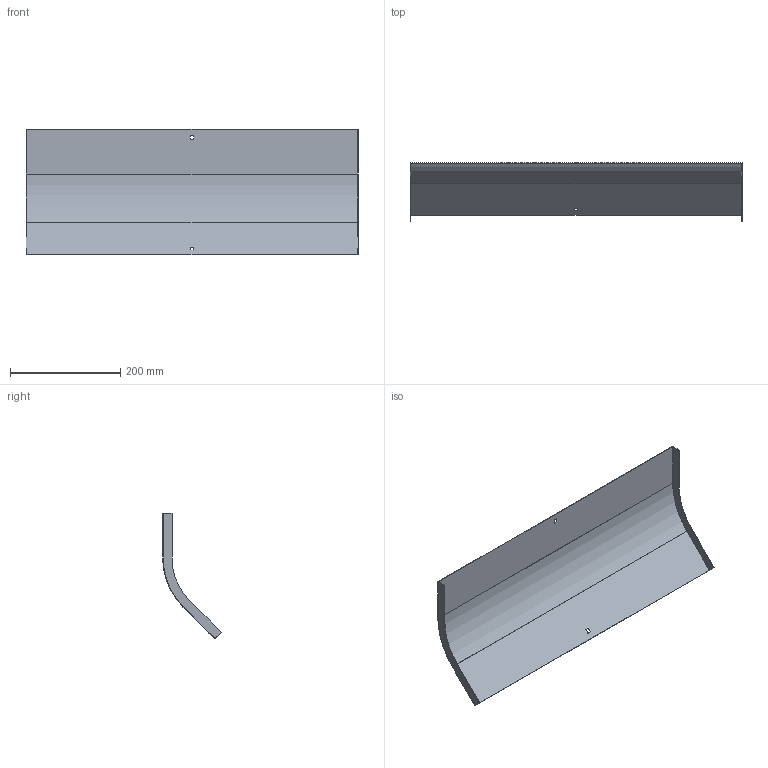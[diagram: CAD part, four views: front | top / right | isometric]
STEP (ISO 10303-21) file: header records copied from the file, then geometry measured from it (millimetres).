
FILE_DESCRIPTION (( 'STEP AP214' ), '1' );
FILE_NAME ('OD4_601.step', '2025-07-16T09:12:23', ( '' ), ( '' ), 'SwSTEP 2.0', 'SolidWorks 2023', '' );
FILE_SCHEMA (( 'AUTOMOTIVE_DESIGN' ));
Length unit declared in the file: millimetre
Products named in the file (1): OD4_601
Bounding box: 602 x 106.5 x 228.09 mm (x, y, z)
Volume: 165436 mm3; surface area: 332689.6 mm2
Topology: 1 solids, 1 shells, 26 faces, 72 edges, 48 vertices
Faces by surface type: plane 22, cylinder 4
Entity records: 855 total; most frequent: CARTESIAN_POINT 147, ORIENTED_EDGE 144, DIRECTION 134, EDGE_CURVE 72, VECTOR 64, LINE 64, VERTEX_POINT 48, AXIS2_PLACEMENT_3D 35
